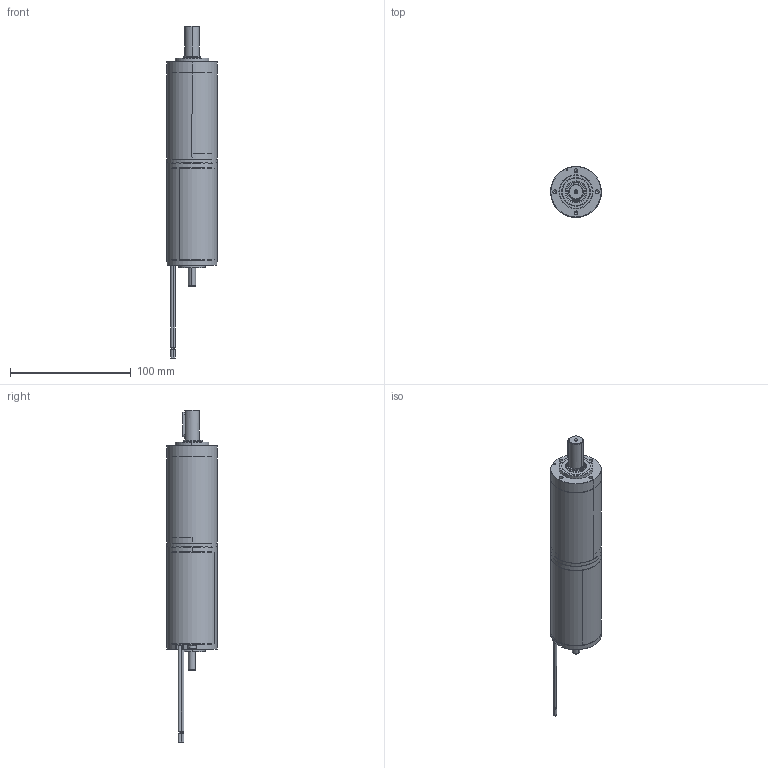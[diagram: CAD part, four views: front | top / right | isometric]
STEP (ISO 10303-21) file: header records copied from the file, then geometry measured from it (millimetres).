
FILE_DESCRIPTION (( 'STEP AP214' ), '1' );
FILE_NAME ('BRx42-40-PGx42 (4 Stage).STEP', '2025-05-13T06:17:43', ( '' ), ( '' ), 'SwSTEP 2.0', 'SolidWorks 2023', '' );
FILE_SCHEMA (( 'AUTOMOTIVE_DESIGN' ));
Length unit declared in the file: millimetre
Products named in the file (1): BRx42-40-PGx42 (4 Stage)
Bounding box: 42 x 42 x 274.85 mm (x, y, z)
Volume: 155004.9 mm3; surface area: 58836.6 mm2
Topology: 17 solids, 17 shells, 1574 faces, 3781 edges, 2352 vertices
Faces by surface type: plane 519, cylinder 313, cone 310, torus 222, bspline 186, sphere 24
Entity records: 73119 total; most frequent: CARTESIAN_POINT 19872, ORIENTED_EDGE 7522, DIRECTION 7355, EDGE_CURVE 3761, AXIS2_PLACEMENT_3D 2991, VERTEX_POINT 2352, EDGE_LOOP 1747, CIRCLE 1602
